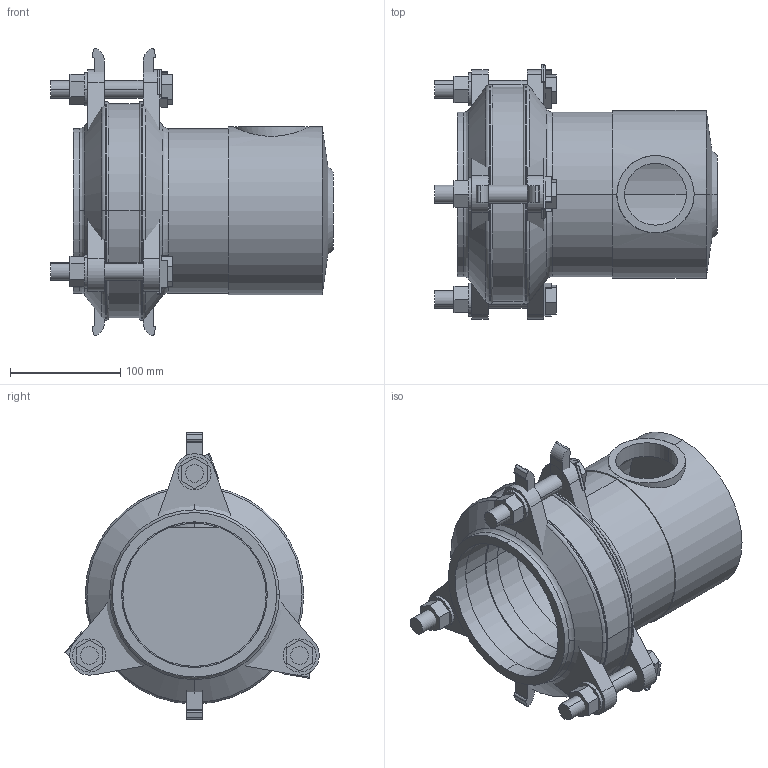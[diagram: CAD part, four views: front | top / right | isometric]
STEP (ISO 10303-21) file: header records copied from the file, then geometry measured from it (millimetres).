
FILE_DESCRIPTION(('STEP AP214'),'1');
FILE_NAME('HDA0004430 DN 100 radial.STP','2015-02-06T10:15:50',(' '),(' '),'Spatial InterOp 3D',' ',' ');
FILE_SCHEMA(('automotive_design'));
Length unit declared in the file: millimetre
Products named in the file (36): 3D-Objekt
Bounding box: 256 x 230.5 x 260 mm (x, y, z)
Volume: 1814006.6 mm3; surface area: 515323.5 mm2
Topology: 36 solids, 36 shells, 287 faces, 637 edges, 422 vertices
Faces by surface type: plane 184, cylinder 79, cone 12, torus 12
Entity records: 11394 total; most frequent: CARTESIAN_POINT 1677, DIRECTION 1487, ORIENTED_EDGE 1274, EDGE_CURVE 637, AXIS2_PLACEMENT_3D 533, VERTEX_POINT 422, LINE 421, VECTOR 421
